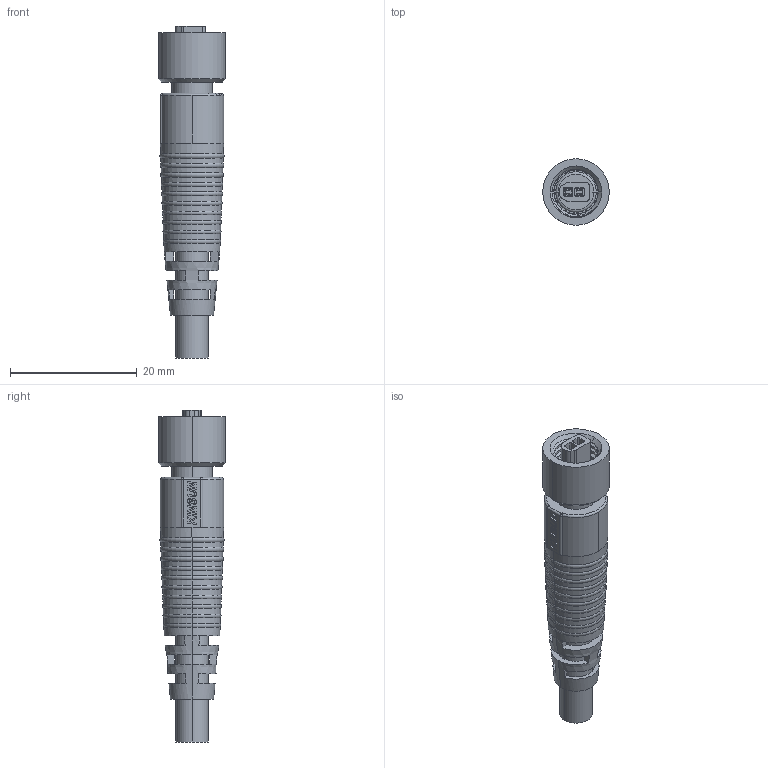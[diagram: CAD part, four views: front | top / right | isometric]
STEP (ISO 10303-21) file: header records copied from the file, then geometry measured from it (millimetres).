
FILE_DESCRIPTION((''),'2;1');
FILE_NAME('SPE-2R2R-10001_C_01_ASM','2026-05-21T',('fros.liao'),(''),'CREO PARAMETRIC BY PTC INC, 2018360','CREO PARAMETRIC BY PTC INC, 2018360','');
FILE_SCHEMA(('CONFIG_CONTROL_DESIGN'));
Length unit declared in the file: millimetre
Products named in the file (3): O-RING_5X0; MOLDING; SPE-2R2R-10001_C_01_ASM
Assembly tree (2 placements, depth 2):
  SPE-2R2R-10001_C_01_ASM
    O-RING_5X0
    MOLDING
Bounding box: 10.5 x 10.5 x 52.43 mm (x, y, z)
Volume: 2831.4 mm3; surface area: 2428 mm2
Topology: 2 solids, 2 shells, 301 faces, 786 edges, 500 vertices
Faces by surface type: plane 152, cylinder 68, cone 32, torus 25, extrusion 20, bspline 2, sphere 2
Entity records: 12051 total; most frequent: CARTESIAN_POINT 4489, ORIENTED_EDGE 1568, DIRECTION 1553, EDGE_CURVE 784, AXIS2_PLACEMENT_3D 538, VERTEX_POINT 500, VECTOR 477, LINE 457
